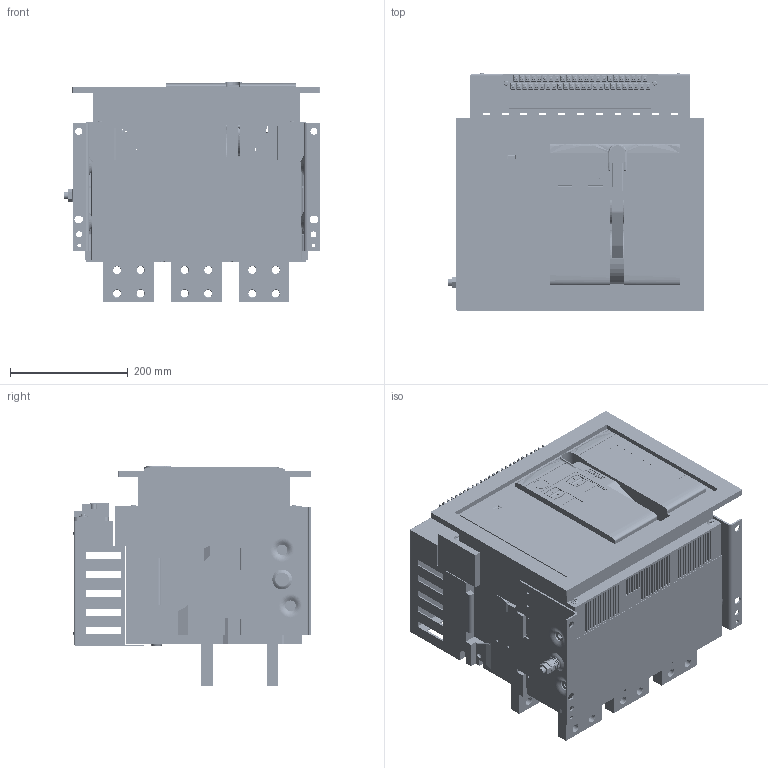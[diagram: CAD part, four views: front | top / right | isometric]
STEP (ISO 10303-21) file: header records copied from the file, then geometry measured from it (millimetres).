
FILE_DESCRIPTION (( 'STEP AP214' ), '1' );
FILE_NAME ('TENGEN_TGW1N-2500_3P_F (2).STEP', '2026-06-02T08:29:47', ( '' ), ( '' ), 'SwSTEP 2.0', 'SolidWorks 2024', '' );
FILE_SCHEMA (( 'AUTOMOTIVE_DESIGN' ));
Length unit declared in the file: millimetre
Products named in the file (30): 8TZD_282_1271_AF0_1_1_1_1_1_1_7_1.stp; 3200ZHAOKE_ASM_2_1_ASM_1_ASM__5_ASM_1.stp; MANIFOLD_SOLID_BREP_168_1_1_1_5_1.stp; TENGEN_Рамка_3200-6300_Fixed.stp; 8TZD_282_1272_AF0_1_1_1_1_1_1_7_1.stp; 8TZD_253_1324_1_1_1_1_1_1_3_1_4_1.stp; 8TZD_860_6288_1_1_1_1_1_1_3_1_4_1.stp; 8TZD_156_6063.stp; MANIFOLD_SOLID_BREP_171_1_1_1_5_1.stp; MANIFOLD_SOLID_BREP_169_1_1_1_5_1.stp; GB_T9074_4-M6X80_4_1_1_1_1_4__4_1.stp; 2000SB_1_1_1_1_1_1_3_1_2_3_4_1.stp; 111111111_2_1_1_1_1_1_3_1_2_3_4_1.stp; MANIFOLD_SOLID_BREP_170_1_1_1_5_1.stp; ASM0001_ASM_1_ASM_1_ASM_1_ASM_5_ASM_1.stp; 8TZD_282_1271_AF1_1_1_1_1_1_1_7_1.stp; 8TZD_253_1322_1_1_1_1_1_1_3_1_4_1.stp; 8TZD_235_1114_1_1_1_1_1_1_3_1_4_1.stp; 2500A3P-GDSP_ASM_1_ASM_1_ASM__5_ASM_1.stp; 5TZD_005_6016_ASM_1_1_ASM_1_A_5_ASM_1.stp; 2500A3P-GDSP_ASM_1_ASM_1_1_AS_5_ASM_1.stp; BOJ3B645A41J6GW_ASM_1_ASM_1_A_5_ASM_1.stp; TENGEN_TGW1N-2500_3P_F (2); MANIFOLD_SOLID_BREP_165_1_1_1_5_1.stp; TENGEN_Рамка_3200-6300_Fixed; 8TZD_087_6007.stp; MANIFOLD_SOLID_BREP_167_1_1_1_5_1.stp; 8TZD_321_1011_1_1_1_1_1_1_3_1_4_1.stp; 8TZD_253_1325_1_1_1_1_1_1_3_1_4_1.stp; 8TZD_005_6110_1_1_1_1_1_1_3_1_4_1.stp
Assembly tree (32 placements, depth 6):
  TENGEN_TGW1N-2500_3P_F (2)
    TENGEN_Рамка_3200-6300_Fixed
      TENGEN_Рамка_3200-6300_Fixed.stp
        8TZD_087_6007.stp
        8TZD_156_6063.stp
    2500A3P-GDSP_ASM_1_ASM_1_1_AS_5_ASM_1.stp
      2500A3P-GDSP_ASM_1_ASM_1_ASM__5_ASM_1.stp
        BOJ3B645A41J6GW_ASM_1_ASM_1_A_5_ASM_1.stp
          MANIFOLD_SOLID_BREP_165_1_1_1_5_1.stp
          MANIFOLD_SOLID_BREP_167_1_1_1_5_1.stp
          MANIFOLD_SOLID_BREP_168_1_1_1_5_1.stp
          MANIFOLD_SOLID_BREP_169_1_1_1_5_1.stp
          MANIFOLD_SOLID_BREP_170_1_1_1_5_1.stp
          MANIFOLD_SOLID_BREP_171_1_1_1_5_1.stp
      ASM0001_ASM_1_ASM_1_ASM_1_ASM_5_ASM_1.stp
        3200ZHAOKE_ASM_2_1_ASM_1_ASM__5_ASM_1.stp
          5TZD_005_6016_ASM_1_1_ASM_1_A_5_ASM_1.stp
            8TZD_005_6110_1_1_1_1_1_1_3_1_4_1.stp
            8TZD_253_1322_1_1_1_1_1_1_3_1_4_1.stp
            8TZD_282_1272_AF0_1_1_1_1_1_1_7_1.stp
            8TZD_235_1114_1_1_1_1_1_1_3_1_4_1.stp
            8TZD_321_1011_1_1_1_1_1_1_3_1_4_1.stp
            8TZD_282_1271_AF0_1_1_1_1_1_1_7_1.stp
            8TZD_282_1271_AF1_1_1_1_1_1_1_7_1.stp
            8TZD_253_1324_1_1_1_1_1_1_3_1_4_1.stp
            8TZD_253_1325_1_1_1_1_1_1_3_1_4_1.stp
            8TZD_860_6288_1_1_1_1_1_1_3_1_4_1.stp
          111111111_2_1_1_1_1_1_3_1_2_3_4_1.stp
          2000SB_1_1_1_1_1_1_3_1_2_3_4_1.stp
      GB_T9074_4-M6X80_4_1_1_1_1_4__4_1.stp  x4
Bounding box: 436.9 x 404 x 375.5 mm (x, y, z)
Volume: 21128130.9 mm3; surface area: 2236399 mm2
Topology: 20 solids, 28 shells, 5881 faces, 15959 edges, 10188 vertices
Faces by surface type: plane 3823, cylinder 1371, bspline 409, cone 115, torus 93, sphere 70
Entity records: 252599 total; most frequent: CARTESIAN_POINT 108546, ORIENTED_EDGE 31054, DIRECTION 28096, EDGE_CURVE 15529, LINE 10526, VECTOR 10526, VERTEX_POINT 10020, AXIS2_PLACEMENT_3D 8785
